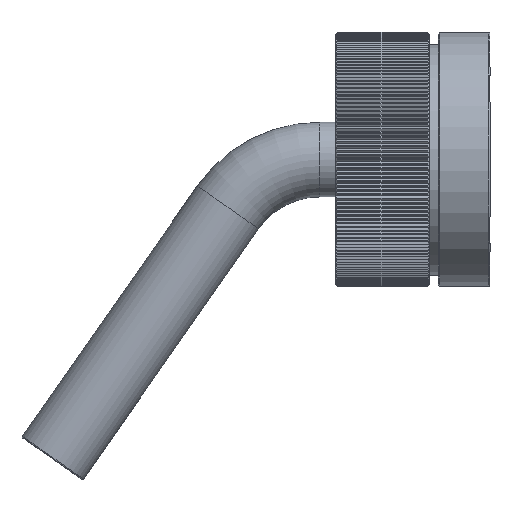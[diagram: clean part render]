
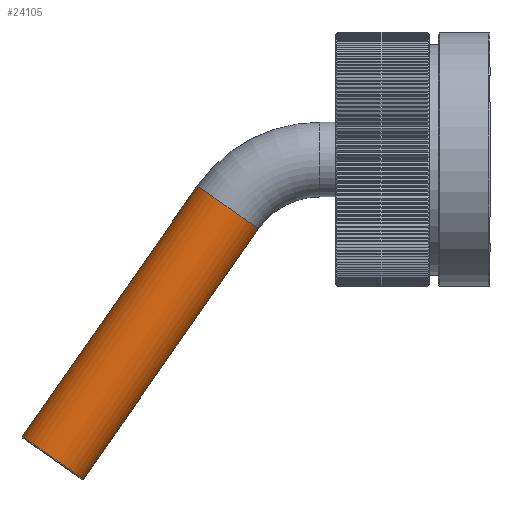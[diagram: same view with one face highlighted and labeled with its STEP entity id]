
A CAD part, left-side view. The second image highlights one B-rep face of the part: STEP entity #24105.
In plain terms, the highlighted cylindrical face has radius 10 mm (diameter 20 mm), a full revolution.
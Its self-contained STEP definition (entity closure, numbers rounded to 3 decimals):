
#3531=ORIENTED_EDGE('',*,*,#8547,.T.);
#3532=ORIENTED_EDGE('',*,*,#8546,.T.);
#8546=EDGE_CURVE('',#11061,#11061,#12480,.F.);
#8547=EDGE_CURVE('',#11062,#11062,#12481,.T.);
#11061=VERTEX_POINT('',#32689);
#11062=VERTEX_POINT('',#32692);
#12480=CIRCLE('',#25366,10.);
#12481=CIRCLE('',#25368,10.);
#13397=EDGE_LOOP('',(#3531));
#13398=EDGE_LOOP('',(#3532));
#14695=FACE_BOUND('',#13397,.T.);
#14696=FACE_BOUND('',#13398,.T.);
#15962=CYLINDRICAL_SURFACE('',#25367,10.);
#24105=ADVANCED_FACE('',(#14695,#14696),#15962,.T.);
#25366=AXIS2_PLACEMENT_3D('',#32688,#27567,#27568);
#25367=AXIS2_PLACEMENT_3D('',#32690,#27569,#27570);
#25368=AXIS2_PLACEMENT_3D('',#32691,#27571,#27572);
#27567=DIRECTION('',(0.819,-0.574,0.));
#27568=DIRECTION('',(-0.574,-0.819,0.));
#27569=DIRECTION('',(0.819,-0.574,0.));
#27570=DIRECTION('',(0.574,0.819,0.));
#27571=DIRECTION('',(0.819,-0.574,0.));
#27572=DIRECTION('',(0.574,0.819,0.));
#32688=CARTESIAN_POINT('',(-12.793,64.575,0.));
#32689=CARTESIAN_POINT('',(-18.528,56.383,0.));
#32690=CARTESIAN_POINT('',(-79.963,111.608,0.));
#32691=CARTESIAN_POINT('',(-79.717,111.436,0.));
#32692=CARTESIAN_POINT('',(-73.982,119.627,0.));
